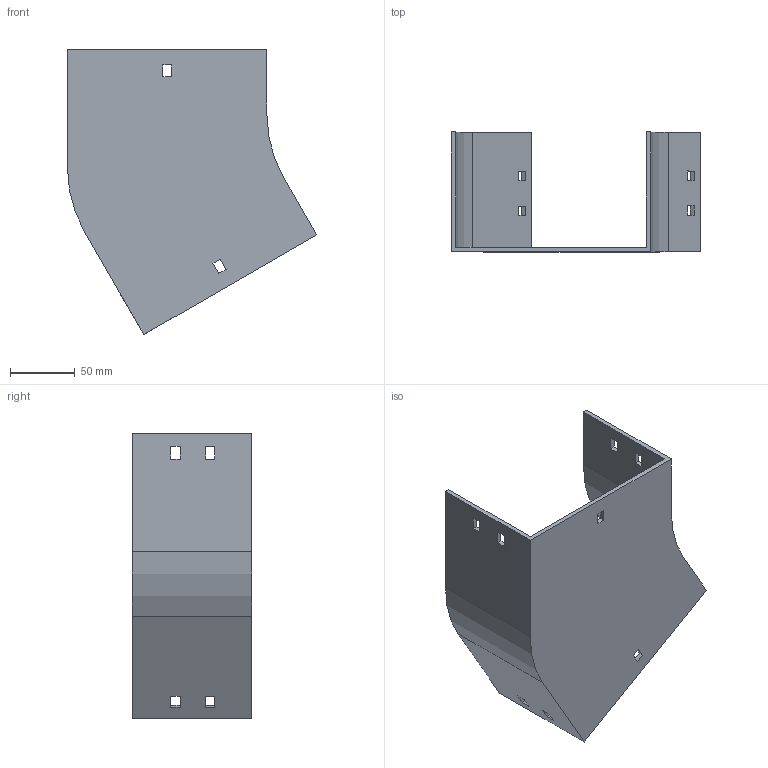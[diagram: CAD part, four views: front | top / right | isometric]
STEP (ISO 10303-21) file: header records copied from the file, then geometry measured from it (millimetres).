
FILE_DESCRIPTION (( 'STEP AP214' ), '1' );
FILE_NAME ('12B1I150.step', '2025-02-21T09:36:10', ( '' ), ( '' ), 'SwSTEP 2.0', 'SolidWorks 2023', '' );
FILE_SCHEMA (( 'AUTOMOTIVE_DESIGN' ));
Length unit declared in the file: millimetre
Products named in the file (1): 12B1I150
Bounding box: 192.4 x 92.5 x 220.3 mm (x, y, z)
Volume: 223284.6 mm3; surface area: 132439.6 mm2
Topology: 1 solids, 1 shells, 58 faces, 168 edges, 112 vertices
Faces by surface type: plane 54, cylinder 4
Entity records: 1943 total; most frequent: CARTESIAN_POINT 339, ORIENTED_EDGE 336, DIRECTION 294, EDGE_CURVE 168, VECTOR 160, LINE 160, VERTEX_POINT 112, EDGE_LOOP 78
